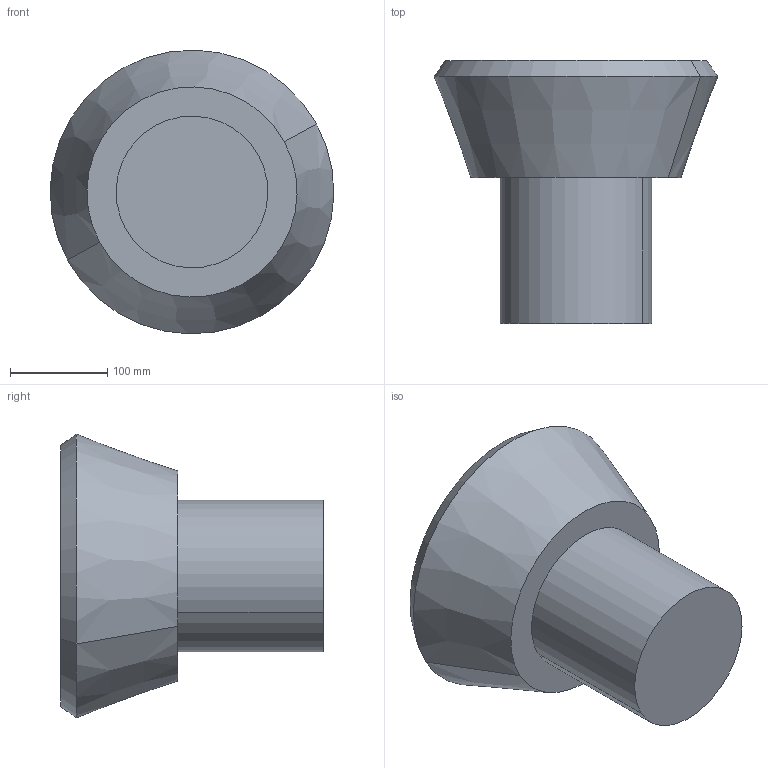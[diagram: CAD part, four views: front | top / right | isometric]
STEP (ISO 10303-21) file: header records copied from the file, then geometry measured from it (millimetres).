
FILE_DESCRIPTION(('CATIA V5 STEP Exchange'),'2;1');
FILE_NAME('C:\_Andres\UNIVERSIDAD\IQS\ASIGNATURAS\DAO\EXF\EXF-15161c\1original\Perelló_Ibarra_Ej09-optimiza_v18.stp','2016-03-04T21:55:30+00:00',('none'),('none'),'CATIA Version 5 Release 20 SP 1 (IN-10)','CATIA V5 STEP AP203','none');
FILE_SCHEMA(('CONFIG_CONTROL_DESIGN'));
Length unit declared in the file: millimetre
Products named in the file (1): Perelló_Ibarra_Ej09-optimiza_v18
Bounding box: 291.55 x 270.28 x 291.55 mm (x, y, z)
Volume: 9154500.4 mm3; surface area: 277021.9 mm2
Topology: 1 solids, 2 shells, 13 faces, 22 edges, 14 vertices
Faces by surface type: plane 5, cylinder 4, cone 4
Entity records: 324 total; most frequent: CARTESIAN_POINT 47, ORIENTED_EDGE 44, DIRECTION 42, AXIS2_PLACEMENT_3D 25, EDGE_CURVE 22, CIRCLE 14, EDGE_LOOP 14, VERTEX_POINT 14
